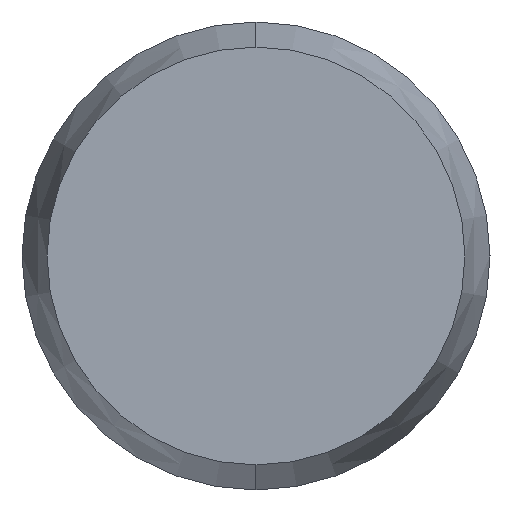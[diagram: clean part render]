
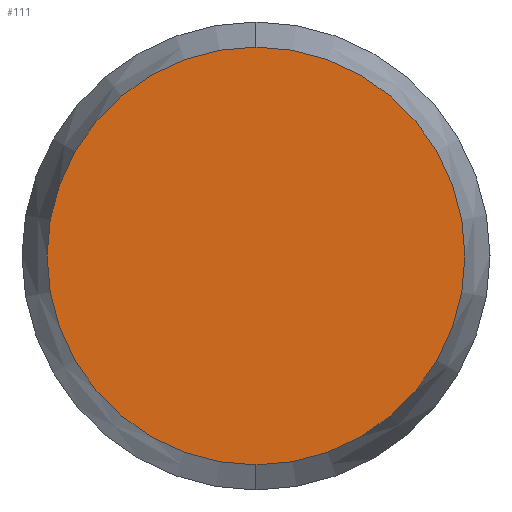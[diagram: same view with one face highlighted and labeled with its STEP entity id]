
A CAD part, left-side view. The second image highlights one B-rep face of the part: STEP entity #111.
In plain terms, the highlighted planar face has unit normal (-1, 0, 0).
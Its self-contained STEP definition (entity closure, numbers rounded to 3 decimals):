
#8 = EDGE_CURVE ( 'NONE', #9, #10, #82, .T. ) ;
#9 = VERTEX_POINT ( 'NONE', #77 ) ;
#10 = VERTEX_POINT ( 'NONE', #76 ) ;
#76 = CARTESIAN_POINT ( 'NONE',  ( -8., 0., -0.67 ) ) ;
#77 = CARTESIAN_POINT ( 'NONE',  ( -8., 0., 0.67 ) ) ;
#78 = DIRECTION ( 'NONE',  ( 0., 0., -1. ) ) ;
#79 = DIRECTION ( 'NONE',  ( 1., 0., 0. ) ) ;
#80 = CARTESIAN_POINT ( 'NONE',  ( -8., 0., 0. ) ) ;
#81 = AXIS2_PLACEMENT_3D ( 'NONE', #80, #79, #78 ) ;
#82 = CIRCLE ( 'NONE', #81, 0.67 ) ;
#108 = EDGE_CURVE ( 'NONE', #10, #9, #146, .T. ) ;
#111 = ADVANCED_FACE ( 'NONE', ( #141 ), #140, .F. ) ;
#112 = EDGE_LOOP ( 'NONE', ( #113, #114 ) ) ;
#113 = ORIENTED_EDGE ( 'NONE', *, *, #8, .F. ) ;
#114 = ORIENTED_EDGE ( 'NONE', *, *, #108, .F. ) ;
#136 = DIRECTION ( 'NONE',  ( 0., 0., -1. ) ) ;
#137 = DIRECTION ( 'NONE',  ( 1., 0., 0. ) ) ;
#138 = CARTESIAN_POINT ( 'NONE',  ( -8., 0., 0. ) ) ;
#139 = AXIS2_PLACEMENT_3D ( 'NONE', #138, #137, #136 ) ;
#140 = PLANE ( 'NONE',  #139 ) ;
#141 = FACE_OUTER_BOUND ( 'NONE', #112, .T. ) ;
#142 = DIRECTION ( 'NONE',  ( 0., 0., -1. ) ) ;
#143 = DIRECTION ( 'NONE',  ( 1., 0., 0. ) ) ;
#144 = CARTESIAN_POINT ( 'NONE',  ( -8., 0., 0. ) ) ;
#145 = AXIS2_PLACEMENT_3D ( 'NONE', #144, #143, #142 ) ;
#146 = CIRCLE ( 'NONE', #145, 0.67 ) ;
